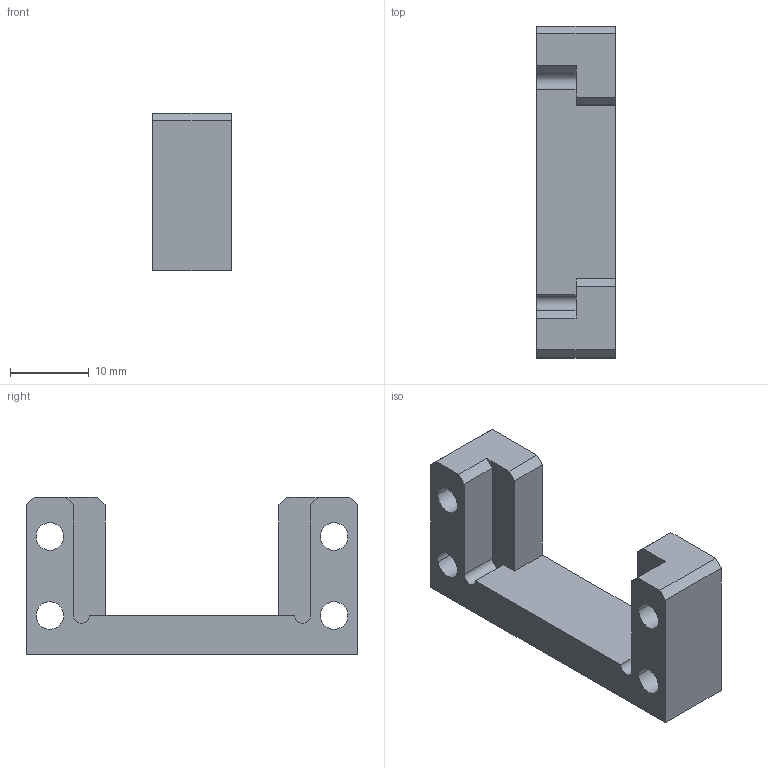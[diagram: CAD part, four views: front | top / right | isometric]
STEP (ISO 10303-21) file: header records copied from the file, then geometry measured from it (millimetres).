
FILE_DESCRIPTION(('CATIA V5 STEP Exchange'),'2;1');
FILE_NAME('C:\Users\hh\Desktop\AGZ102\AGZ102.03_V1.stp','2023-09-23T05:37:06+00:00',('none'),('none'),'CATIA Version 5 Release 21 GA (IN-10)','CATIA V5 STEP AP214','none');
FILE_SCHEMA(('AUTOMOTIVE_DESIGN { 1 0 10303 214 1 1 1 1 }'));
Length unit declared in the file: millimetre
Products named in the file (1): 右挡边
Bounding box: 10 x 42 x 20 mm (x, y, z)
Volume: 4079.4 mm3; surface area: 2906.8 mm2
Topology: 1 solids, 1 shells, 30 faces, 86 edges, 58 vertices
Faces by surface type: plane 20, cylinder 10
Entity records: 981 total; most frequent: ORIENTED_EDGE 172, CARTESIAN_POINT 170, DIRECTION 136, EDGE_CURVE 86, VECTOR 66, LINE 66, VERTEX_POINT 58, AXIS2_PLACEMENT_3D 46
